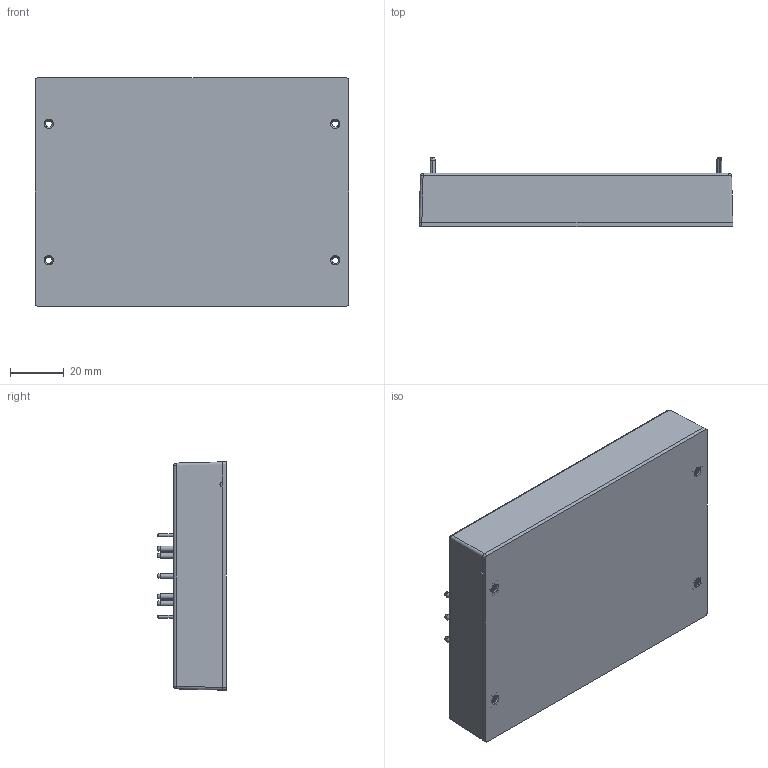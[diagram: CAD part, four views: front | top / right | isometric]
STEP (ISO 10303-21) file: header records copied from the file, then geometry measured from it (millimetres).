
FILE_DESCRIPTION (( 'STEP AP214' ), '1' );
FILE_NAME ('CBM300S.STEP', '2026-03-26T05:39:56', ( 'cincon' ), ( '' ), 'SwSTEP 2.0', 'SolidWorks 2020', '' );
FILE_SCHEMA (( 'AUTOMOTIVE_DESIGN' ));
Length unit declared in the file: millimetre
Products named in the file (1): CBM300S
Bounding box: 116.8 x 25.65 x 85 mm (x, y, z)
Volume: 191792.7 mm3; surface area: 43665.5 mm2
Topology: 1 solids, 10 shells, 1060 faces, 2842 edges, 1874 vertices
Faces by surface type: cylinder 410, plane 392, bspline 168, cone 70, torus 16, sphere 4
Entity records: 65748 total; most frequent: CARTESIAN_POINT 30631, ORIENTED_EDGE 5676, DIRECTION 3986, EDGE_CURVE 2838, VERTEX_POINT 1874, VECTOR 1516, LINE 1516, AXIS2_PLACEMENT_3D 1235
